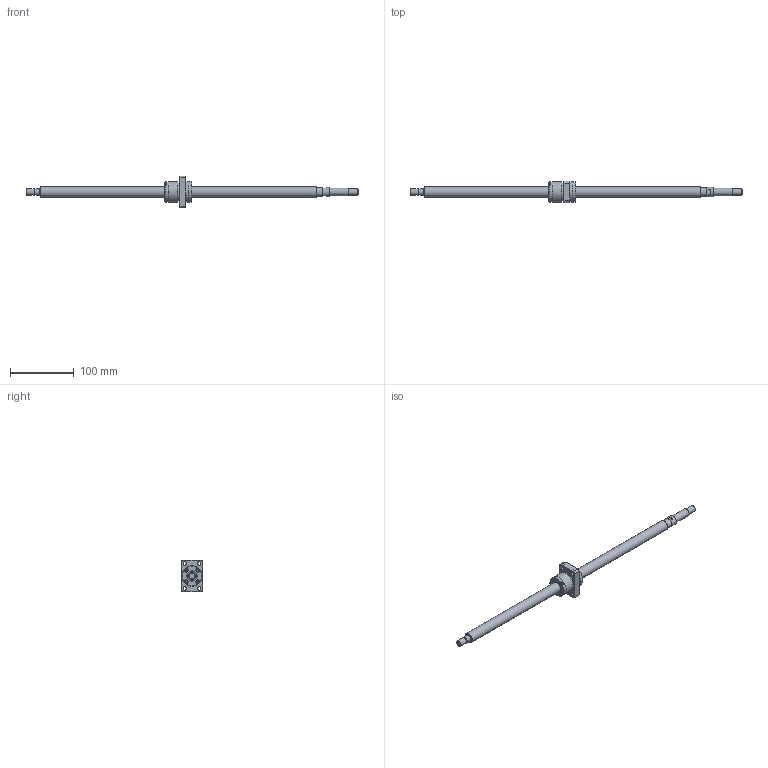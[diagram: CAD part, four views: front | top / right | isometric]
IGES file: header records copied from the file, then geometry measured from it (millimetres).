
Start section: Data from Parasolid IGES Translator 26.0.171, Copyright(c) 2006 Siemens PLM Software. All Rights Reserved.
Global section: file name: BNK1616-3.6G0+521LC5Y(2380).igs; native system: By Siemens PLM Incorporated; preprocessor: XPlus GENERIC/IGES 26.0.171; author: Noname; organization: Noname; date: 20240709.092929; units: millimetre
Bounding box: 521 x 34 x 50 mm (x, y, z)
Surface area: 36803.9 mm2 (no closed solid volume)
Topology: 0 solids, 0 shells, 139 faces, 647 edges, 589 vertices
Faces by surface type: extrusion 75, revolution 64
